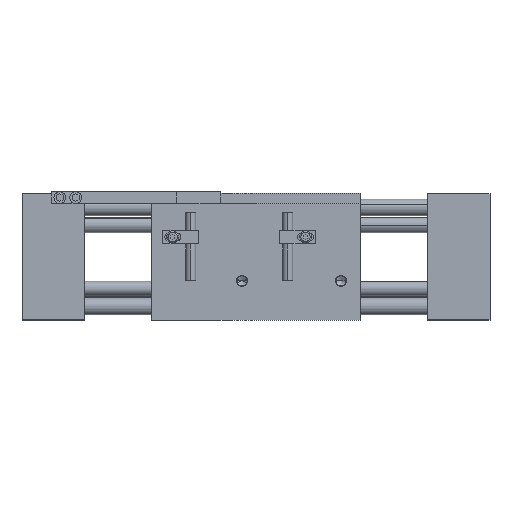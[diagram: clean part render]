
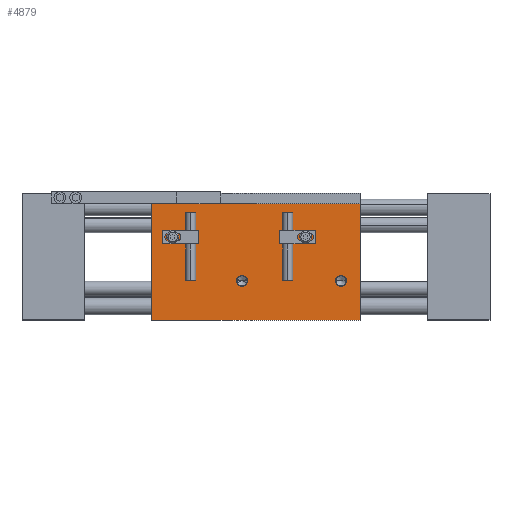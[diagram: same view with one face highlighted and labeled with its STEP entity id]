
A CAD part, top view. The second image highlights one B-rep face of the part: STEP entity #4879.
In plain terms, the highlighted planar face has unit normal (0, 0, 1).
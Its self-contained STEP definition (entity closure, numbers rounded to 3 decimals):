
#10 = VERTEX_POINT ( 'NONE', #7524 ) ;
#53 = VERTEX_POINT ( 'NONE', #1417 ) ;
#98 = DIRECTION ( 'NONE',  ( 1., 0., 0. ) ) ;
#119 = EDGE_CURVE ( 'NONE', #3840, #1744, #1204, .T. ) ;
#244 = LINE ( 'NONE', #2321, #7052 ) ;
#328 = DIRECTION ( 'NONE',  ( 0., -1., 0. ) ) ;
#355 = ORIENTED_EDGE ( 'NONE', *, *, #516, .T. ) ;
#516 = EDGE_CURVE ( 'NONE', #6163, #3840, #244, .T. ) ;
#601 = PLANE ( 'NONE',  #6015 ) ;
#665 = ORIENTED_EDGE ( 'NONE', *, *, #7857, .T. ) ;
#775 = VECTOR ( 'NONE', #8331, 1000. ) ;
#904 = EDGE_CURVE ( 'NONE', #10, #2701, #2448, .T. ) ;
#1076 = CARTESIAN_POINT ( 'NONE',  ( -41.656, -25.4, 19.05 ) ) ;
#1133 = DIRECTION ( 'NONE',  ( 0., 0., -1. ) ) ;
#1160 = ORIENTED_EDGE ( 'NONE', *, *, #1454, .T. ) ;
#1204 = LINE ( 'NONE', #3569, #775 ) ;
#1257 = DIRECTION ( 'NONE',  ( 0., 0., -1. ) ) ;
#1272 = DIRECTION ( 'NONE',  ( 0., 0., -1. ) ) ;
#1417 = CARTESIAN_POINT ( 'NONE',  ( -7.861, -9.652, 19.05 ) ) ;
#1450 = CARTESIAN_POINT ( 'NONE',  ( -41.656, 21.336, 19.05 ) ) ;
#1454 = EDGE_CURVE ( 'NONE', #2701, #10, #2652, .T. ) ;
#1709 = FACE_BOUND ( 'NONE', #3141, .T. ) ;
#1744 = VERTEX_POINT ( 'NONE', #8705 ) ;
#1832 = VERTEX_POINT ( 'NONE', #4690 ) ;
#1925 = EDGE_CURVE ( 'NONE', #53, #6134, #2223, .T. ) ;
#2010 = ORIENTED_EDGE ( 'NONE', *, *, #4076, .T. ) ;
#2163 = ORIENTED_EDGE ( 'NONE', *, *, #1925, .T. ) ;
#2184 = EDGE_LOOP ( 'NONE', ( #665, #2163 ) ) ;
#2223 = CIRCLE ( 'NONE', #7421, 2.273 ) ;
#2321 = CARTESIAN_POINT ( 'NONE',  ( -41.656, 25.4, 19.05 ) ) ;
#2416 = ORIENTED_EDGE ( 'NONE', *, *, #119, .T. ) ;
#2448 = CIRCLE ( 'NONE', #5119, 2.273 ) ;
#2652 = CIRCLE ( 'NONE', #5238, 2.273 ) ;
#2701 = VERTEX_POINT ( 'NONE', #6597 ) ;
#2765 = DIRECTION ( 'NONE',  ( 0., 0., -1. ) ) ;
#3141 = EDGE_LOOP ( 'NONE', ( #1160, #8699 ) ) ;
#3211 = CARTESIAN_POINT ( 'NONE',  ( -41.656, 21.336, 19.05 ) ) ;
#3569 = CARTESIAN_POINT ( 'NONE',  ( -41.656, -25.4, 19.05 ) ) ;
#3620 = CARTESIAN_POINT ( 'NONE',  ( -5.588, -9.652, 19.05 ) ) ;
#3840 = VERTEX_POINT ( 'NONE', #1076 ) ;
#4071 = DIRECTION ( 'NONE',  ( 0., 1., 0. ) ) ;
#4076 = EDGE_CURVE ( 'NONE', #1744, #1832, #5888, .T. ) ;
#4294 = DIRECTION ( 'NONE',  ( -1., 0., 0. ) ) ;
#4556 = VECTOR ( 'NONE', #98, 1000. ) ;
#4690 = CARTESIAN_POINT ( 'NONE',  ( 41.656, 21.336, 19.05 ) ) ;
#4879 = ADVANCED_FACE ( 'NONE', ( #5330, #1709, #6937 ), #601, .F. ) ;
#5087 = EDGE_LOOP ( 'NONE', ( #2010, #5135, #355, #2416 ) ) ;
#5119 = AXIS2_PLACEMENT_3D ( 'NONE', #5321, #1257, #6024 ) ;
#5135 = ORIENTED_EDGE ( 'NONE', *, *, #7117, .F. ) ;
#5181 = LINE ( 'NONE', #1450, #4556 ) ;
#5201 = CARTESIAN_POINT ( 'NONE',  ( 34.036, -9.652, 19.05 ) ) ;
#5238 = AXIS2_PLACEMENT_3D ( 'NONE', #5201, #1133, #5887 ) ;
#5321 = CARTESIAN_POINT ( 'NONE',  ( 34.036, -9.652, 19.05 ) ) ;
#5330 = FACE_BOUND ( 'NONE', #2184, .T. ) ;
#5702 = CIRCLE ( 'NONE', #6731, 2.273 ) ;
#5887 = DIRECTION ( 'NONE',  ( -1., 0., 0. ) ) ;
#5888 = LINE ( 'NONE', #8132, #7698 ) ;
#6015 = AXIS2_PLACEMENT_3D ( 'NONE', #8072, #1272, #6043 ) ;
#6024 = DIRECTION ( 'NONE',  ( -1., 0., 0. ) ) ;
#6043 = DIRECTION ( 'NONE',  ( -1., 0., 0. ) ) ;
#6134 = VERTEX_POINT ( 'NONE', #6593 ) ;
#6163 = VERTEX_POINT ( 'NONE', #3211 ) ;
#6593 = CARTESIAN_POINT ( 'NONE',  ( -3.315, -9.652, 19.05 ) ) ;
#6597 = CARTESIAN_POINT ( 'NONE',  ( 36.309, -9.652, 19.05 ) ) ;
#6731 = AXIS2_PLACEMENT_3D ( 'NONE', #3620, #8396, #4294 ) ;
#6868 = CARTESIAN_POINT ( 'NONE',  ( -5.588, -9.652, 19.05 ) ) ;
#6937 = FACE_OUTER_BOUND ( 'NONE', #5087, .T. ) ;
#7052 = VECTOR ( 'NONE', #328, 1000. ) ;
#7117 = EDGE_CURVE ( 'NONE', #6163, #1832, #5181, .T. ) ;
#7421 = AXIS2_PLACEMENT_3D ( 'NONE', #6868, #2765, #7542 ) ;
#7524 = CARTESIAN_POINT ( 'NONE',  ( 31.763, -9.652, 19.05 ) ) ;
#7542 = DIRECTION ( 'NONE',  ( -1., 0., 0. ) ) ;
#7698 = VECTOR ( 'NONE', #4071, 1000. ) ;
#7857 = EDGE_CURVE ( 'NONE', #6134, #53, #5702, .T. ) ;
#8072 = CARTESIAN_POINT ( 'NONE',  ( -41.656, 25.4, 19.05 ) ) ;
#8132 = CARTESIAN_POINT ( 'NONE',  ( 41.656, -25.4, 19.05 ) ) ;
#8331 = DIRECTION ( 'NONE',  ( 1., 0., 0. ) ) ;
#8396 = DIRECTION ( 'NONE',  ( 0., 0., -1. ) ) ;
#8699 = ORIENTED_EDGE ( 'NONE', *, *, #904, .T. ) ;
#8705 = CARTESIAN_POINT ( 'NONE',  ( 41.656, -25.4, 19.05 ) ) ;
